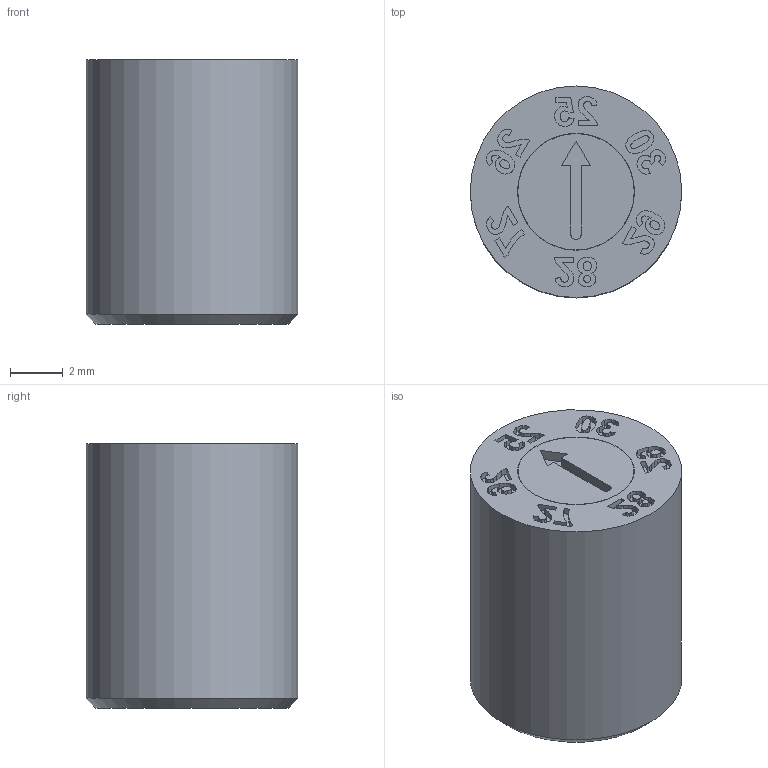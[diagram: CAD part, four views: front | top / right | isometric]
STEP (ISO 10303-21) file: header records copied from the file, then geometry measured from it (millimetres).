
FILE_DESCRIPTION(/* description */ (''),/* implementation_level */ '2;1');
FILE_NAME(/* name */ 'D2300-Y8.step',/* time_stamp */ '2025-06-30T13:29:38+02:00',/* author */ (''),/* organization */ (''),/* preprocessor_version */ 'ST-DEVELOPER v20.1',/* originating_system */ 'Autodesk Translation Framework v14.10.0.0',/* authorisation */ '');
FILE_SCHEMA (('AUTOMOTIVE_DESIGN { 1 0 10303 214 3 1 1 }'));
Length unit declared in the file: millimetre
Products named in the file (1): D2300-Y8
Bounding box: 8 x 8 x 10 mm (x, y, z)
Volume: 498.9 mm3; surface area: 392 mm2
Topology: 1 solids, 1 shells, 297 faces, 824 edges, 549 vertices
Faces by surface type: bspline 227, plane 65, cylinder 4, cone 1
Full cylindrical faces by diameter (mm): 4.4 x1, 4.42 x1, 8 x1
Entity records: 11602 total; most frequent: CARTESIAN_POINT 5530, ORIENTED_EDGE 1648, EDGE_CURVE 824, VERTEX_POINT 549, DIRECTION 521, B_SPLINE_CURVE_WITH_KNOTS 454, LINE 361, VECTOR 361
